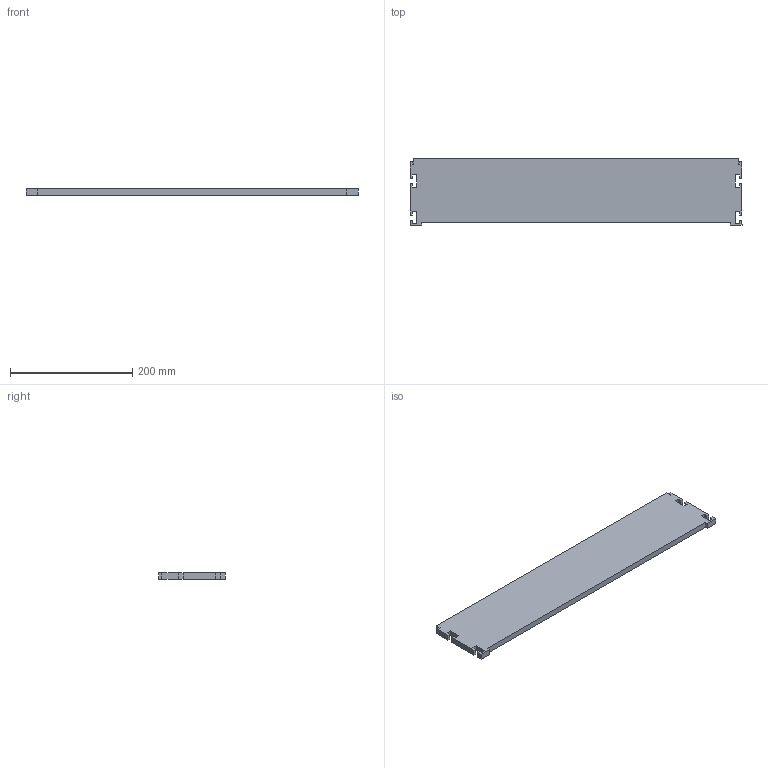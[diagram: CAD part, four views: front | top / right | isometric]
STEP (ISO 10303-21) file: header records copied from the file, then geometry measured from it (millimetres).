
FILE_DESCRIPTION (( 'STEP AP214' ), '1' );
FILE_NAME ('550 baan.STEP', '2017-02-08T12:27:43', ( '' ), ( '' ), 'SwSTEP 2.0', 'SolidWorks 2016', '' );
FILE_SCHEMA (( 'AUTOMOTIVE_DESIGN' ));
Length unit declared in the file: millimetre
Products named in the file (1): 550 baan
Bounding box: 544 x 109 x 10 mm (x, y, z)
Volume: 561969.6 mm3; surface area: 127561.9 mm2
Topology: 1 solids, 1 shells, 54 faces, 156 edges, 104 vertices
Faces by surface type: plane 54
Entity records: 1774 total; most frequent: CARTESIAN_POINT 315, ORIENTED_EDGE 312, DIRECTION 266, EDGE_CURVE 156, VECTOR 156, LINE 156, VERTEX_POINT 104, AXIS2_PLACEMENT_3D 55
